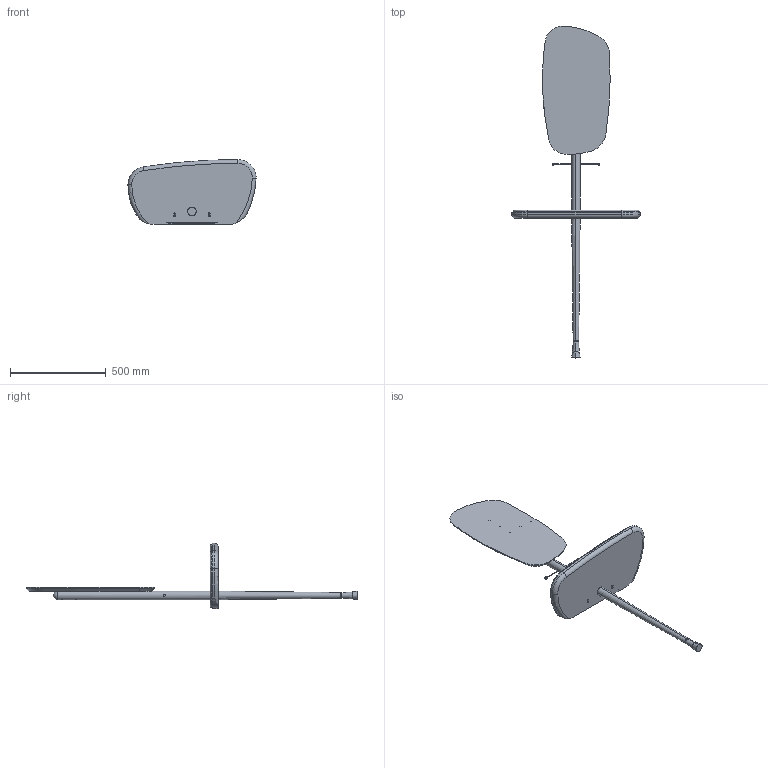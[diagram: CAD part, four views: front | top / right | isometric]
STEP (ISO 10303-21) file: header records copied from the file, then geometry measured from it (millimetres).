
FILE_DESCRIPTION (( 'STEP AP214' ), '1' );
FILE_NAME ('RECIBIDOR_MARMOL_5.STEP', '2016-11-14T09:51:15', ( '' ), ( '' ), 'SwSTEP 2.0', 'SolidWorks 2016', '' );
FILE_SCHEMA (( 'AUTOMOTIVE_DESIGN' ));
Length unit declared in the file: millimetre
Products named in the file (12): 5_SOPORTE_ESPEJO; PLACA MARMOL REDONDEO 5; 3_ANCLAJE_RECIBIDOR; 7_VARILLA_LATON; 8_EMBELLECEDOR_VARILLA; 4_PALO_ESPEJO; 2_REPISA_NOGAL; TORNILLO_ALLEN; 1_PALO_BASE; RECIBIDOR_MARMOL_5; 6_ESPEJO_CRISTAL; ESPARRAGO_M10
Assembly tree (12 placements, depth 2):
  RECIBIDOR_MARMOL_5
    1_PALO_BASE
    2_REPISA_NOGAL
    3_ANCLAJE_RECIBIDOR
    ESPARRAGO_M10
    4_PALO_ESPEJO
    5_SOPORTE_ESPEJO
    6_ESPEJO_CRISTAL
    TORNILLO_ALLEN  x2
    7_VARILLA_LATON
    8_EMBELLECEDOR_VARILLA
    PLACA MARMOL REDONDEO 5
Bounding box: 670 x 1735.67 x 340 mm (x, y, z)
Volume: 14426450.3 mm3; surface area: 1974217.9 mm2
Topology: 12 solids, 12 shells, 266 faces, 643 edges, 411 vertices
Faces by surface type: cylinder 124, plane 84, torus 34, cone 23, sphere 1
Entity records: 8789 total; most frequent: CARTESIAN_POINT 2113, DIRECTION 1414, ORIENTED_EDGE 1216, EDGE_CURVE 608, AXIS2_PLACEMENT_3D 581, VERTEX_POINT 389, CIRCLE 314, EDGE_LOOP 301
